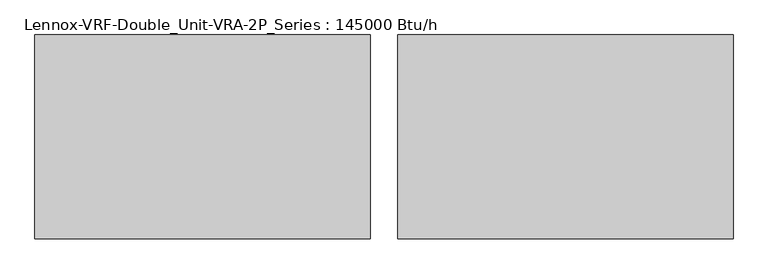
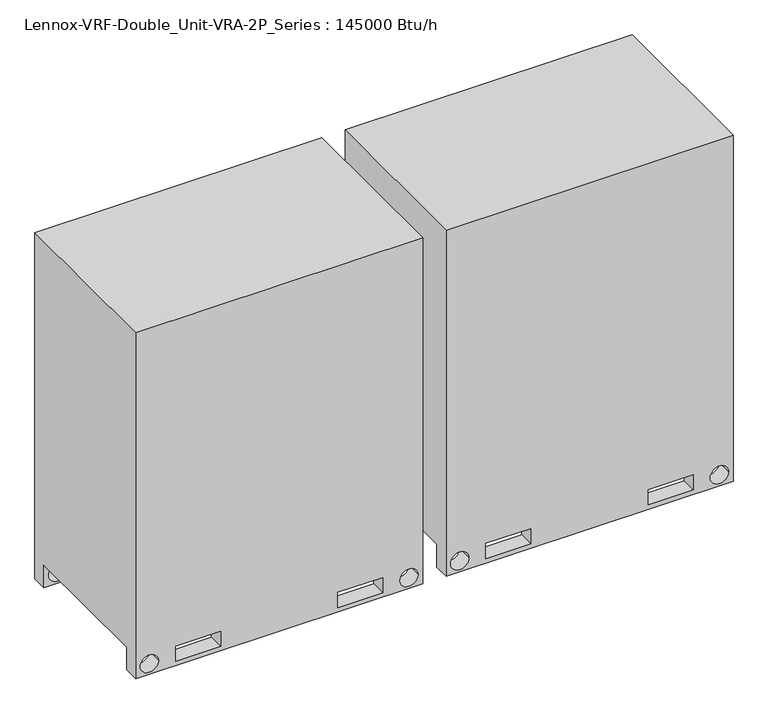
"""IFC4 building model written with IfcOpenShell, lengths in millimetres: proxy geometry, Lennox-VRF-Double_Unit-VRA-2P_Series : 145000 Btu/h."""

from ifc_helpers import new_model, si_unit, frame, origin, place, context, project, spatial, polyline, circle_curve, source, transform, mapped, element, save
from ifc_brep_helpers import plane_surface, revolved_surface, advanced_brep


def lennox_vrf_double_unit_vra_2p_series_145000_btu_h_069cfdef(model_context):
    return source(origin(), model_context, "Body", "AdvancedBrep", [
        advanced_brep(
        [(1309.0, -313.5, 105.0), (51.0, -313.5, 105.0), (51.0, 313.5, 105.0), (1309.0, 313.5, 105.0), (1309.0, -313.5, 0.0), (51.0, -313.5, 0.0), (423.0, -313.5, 90.0), (226.0, -313.5, 90.0), (226.0, -313.5, 20.0), (423.0, -313.5, 20.0), (71.0, -313.5, 50.0), (151.0, -313.5, 50.0), (1209.0, -313.5, 50.0), (1289.0, -313.5, 50.0), (1134.0, -313.5, 90.0), (937.0, -313.5, 90.0), (937.0, -313.5, 20.0), (1134.0, -313.5, 20.0), (51.0, 313.5, 0.0), (1309.0, 313.5, 0.0), (226.0, 313.5, 90.0), (423.0, 313.5, 90.0), (423.0, 313.5, 20.0), (226.0, 313.5, 20.0), (151.0, 313.5, 50.0), (71.0, 313.5, 50.0), (1289.0, 313.5, 50.0), (1209.0, 313.5, 50.0), (937.0, 313.5, 90.0), (1134.0, 313.5, 90.0), (1134.0, 313.5, 20.0), (937.0, 313.5, 20.0), (1309.0, 382.5, 1603.0), (51.0, 382.5, 1603.0), (51.0, -382.5, 1603.0), (1309.0, -382.5, 1603.0), (1309.0, -382.5, 0.0), (51.0, -382.5, 0.0), (51.0, 382.5, 0.0), (1309.0, 382.5, 0.0), (423.0, 382.5, 90.0), (226.0, 382.5, 90.0), (226.0, 382.5, 20.0), (423.0, 382.5, 20.0), (71.0, 382.5, 50.0), (151.0, 382.5, 50.0), (1209.0, 382.5, 50.0), (1289.0, 382.5, 50.0), (1134.0, 382.5, 90.0), (937.0, 382.5, 90.0), (937.0, 382.5, 20.0), (1134.0, 382.5, 20.0), (226.0, -382.5, 90.0), (423.0, -382.5, 90.0), (423.0, -382.5, 20.0), (226.0, -382.5, 20.0), (151.0, -382.5, 50.0), (71.0, -382.5, 50.0), (1289.0, -382.5, 50.0), (1209.0, -382.5, 50.0), (937.0, -382.5, 90.0), (1134.0, -382.5, 90.0), (1134.0, -382.5, 20.0), (937.0, -382.5, 20.0)],
        [
            (0, 1),
            (1, 2),
            (2, 3),
            (3, 0),
            (0, 4),
            (4, 5),
            (5, 1),
            (6, 7),
            (7, 8),
            (8, 9),
            (9, 6),
            (10, 11, circle_curve(frame((111.0, -313.5, 50.0), z_axis=(0.0, -1.0, 0.0), x_axis=(1.0, 0.0, 0.0)), 40.0)),
            (11, 10, circle_curve(frame((111.0, -313.5, 50.0), z_axis=(0.0, -1.0, 0.0), x_axis=(1.0, 0.0, 0.0)), 40.0)),
            (12, 13, circle_curve(frame((1249.0, -313.5, 50.0), z_axis=(0.0, -1.0, 0.0), x_axis=(1.0, 0.0, 0.0)), 40.0)),
            (13, 12, circle_curve(frame((1249.0, -313.5, 50.0), z_axis=(0.0, -1.0, 0.0), x_axis=(1.0, 0.0, 0.0)), 40.0)),
            (14, 15),
            (15, 16),
            (16, 17),
            (17, 14),
            (2, 18),
            (18, 19),
            (19, 3),
            (20, 21),
            (21, 22),
            (22, 23),
            (23, 20),
            (24, 25, circle_curve(frame((111.0, 313.5, 50.0), z_axis=(0.0, 1.0, 0.0), x_axis=(1.0, 0.0, 0.0)), 40.0)),
            (25, 24, circle_curve(frame((111.0, 313.5, 50.0), z_axis=(0.0, 1.0, 0.0), x_axis=(1.0, 0.0, 0.0)), 40.0)),
            (26, 27, circle_curve(frame((1249.0, 313.5, 50.0), z_axis=(0.0, 1.0, 0.0), x_axis=(1.0, 0.0, 0.0)), 40.0)),
            (27, 26, circle_curve(frame((1249.0, 313.5, 50.0), z_axis=(0.0, 1.0, 0.0), x_axis=(1.0, 0.0, 0.0)), 40.0)),
            (28, 29),
            (29, 30),
            (30, 31),
            (31, 28),
            (32, 33),
            (33, 34),
            (34, 35),
            (35, 32),
            (36, 37),
            (37, 5),
            (4, 36),
            (38, 39),
            (39, 19),
            (18, 38),
            (32, 39),
            (38, 33),
            (40, 41),
            (41, 42),
            (42, 43),
            (43, 40),
            (44, 45, circle_curve(frame((111.0, 382.5, 50.0), z_axis=(0.0, -1.0, 0.0), x_axis=(1.0, 0.0, 0.0)), 40.0)),
            (45, 44, circle_curve(frame((111.0, 382.5, 50.0), z_axis=(0.0, -1.0, 0.0), x_axis=(1.0, 0.0, 0.0)), 40.0)),
            (46, 47, circle_curve(frame((1249.0, 382.5, 50.0), z_axis=(0.0, -1.0, 0.0), x_axis=(1.0, 0.0, 0.0)), 40.0)),
            (47, 46, circle_curve(frame((1249.0, 382.5, 50.0), z_axis=(0.0, -1.0, 0.0), x_axis=(1.0, 0.0, 0.0)), 40.0)),
            (48, 49),
            (49, 50),
            (50, 51),
            (51, 48),
            (37, 34),
            (36, 35),
            (52, 53),
            (53, 54),
            (54, 55),
            (55, 52),
            (56, 57, circle_curve(frame((111.0, -382.5, 50.0), z_axis=(0.0, 1.0, 0.0), x_axis=(1.0, 0.0, 0.0)), 40.0)),
            (57, 56, circle_curve(frame((111.0, -382.5, 50.0), z_axis=(0.0, 1.0, 0.0), x_axis=(1.0, 0.0, 0.0)), 40.0)),
            (58, 59, circle_curve(frame((1249.0, -382.5, 50.0), z_axis=(0.0, 1.0, 0.0), x_axis=(1.0, 0.0, 0.0)), 40.0)),
            (59, 58, circle_curve(frame((1249.0, -382.5, 50.0), z_axis=(0.0, 1.0, 0.0), x_axis=(1.0, 0.0, 0.0)), 40.0)),
            (60, 61),
            (61, 62),
            (62, 63),
            (63, 60),
            (6, 53),
            (52, 7),
            (40, 21),
            (20, 41),
            (55, 8),
            (23, 42),
            (54, 9),
            (22, 43),
            (10, 57),
            (56, 11),
            (44, 25),
            (24, 45),
            (12, 59),
            (58, 13),
            (46, 27),
            (26, 47),
            (14, 61),
            (60, 15),
            (48, 29),
            (28, 49),
            (63, 16),
            (31, 50),
            (62, 17),
            (30, 51),
        ],
        [
            plane_surface(frame((1309.0, 313.5, 105.0), z_axis=(0.0, 0.0, -1.0), x_axis=(-1.0, 0.0, 0.0))),
            plane_surface(frame((1309.0, -313.5, 105.0), z_axis=(0.0, 1.0, 0.0), x_axis=(-1.0, 0.0, 0.0))),
            plane_surface(frame((1309.0, 313.5, 0.0), z_axis=(0.0, -1.0, 0.0), x_axis=(-1.0, 0.0, 0.0))),
            plane_surface(frame((680.0, 0.0, 1603.0), z_axis=(0.0, 0.0, 1.0), x_axis=(0.0, -1.0, 0.0))),
            plane_surface(frame((680.0, 0.0, 0.0), z_axis=(0.0, 0.0, -1.0), x_axis=(0.0, -1.0, 0.0))),
            plane_surface(frame((1309.0, 382.5, 1603.0), z_axis=(0.0, 1.0, 0.0), x_axis=(0.0, 0.0, -1.0))),
            plane_surface(frame((51.0, 382.5, 1603.0), z_axis=(-1.0, 0.0, 0.0), x_axis=(0.0, 0.0, -1.0))),
            plane_surface(frame((51.0, -382.5, 1603.0), z_axis=(0.0, -1.0, 0.0), x_axis=(0.0, 0.0, -1.0))),
            plane_surface(frame((1309.0, -382.5, 1603.0), z_axis=(1.0, 0.0, 0.0), x_axis=(0.0, 0.0, -1.0))),
            plane_surface(frame((423.0, -382.5, 90.0), z_axis=(0.0, 0.0, -1.0), x_axis=(0.0, 1.0, 0.0))),
            plane_surface(frame((226.0, -382.5, 90.0), z_axis=(1.0, 0.0, 0.0), x_axis=(0.0, 1.0, 0.0))),
            plane_surface(frame((226.0, -382.5, 20.0), z_axis=(0.0, 0.0, 1.0), x_axis=(0.0, 1.0, 0.0))),
            plane_surface(frame((423.0, -382.5, 20.0), z_axis=(-1.0, 0.0, 0.0), x_axis=(0.0, 1.0, 0.0))),
            revolved_surface(polyline([(151.0, -382.5, 50.0), (151.0, -313.5, 50.0)]), (111.0, 0.0, 50.0), (0.0, -1.0, 0.0)),
            revolved_surface(polyline([(151.0, 313.5, 50.0), (151.0, 382.5, 50.0)]), (111.0, 0.0, 50.0), (0.0, -1.0, 0.0)),
            revolved_surface(polyline([(1289.0, -382.5, 50.0), (1289.0, -313.5, 50.0)]), (1249.0, 0.0, 50.0), (0.0, -1.0, 0.0)),
            revolved_surface(polyline([(1289.0, 313.5, 50.0), (1289.0, 382.5, 50.0)]), (1249.0, 0.0, 50.0), (0.0, -1.0, 0.0)),
            plane_surface(frame((1134.0, -382.5, 90.0), z_axis=(0.0, 0.0, -1.0), x_axis=(0.0, 1.0, 0.0))),
            plane_surface(frame((937.0, -382.5, 90.0), z_axis=(1.0, 0.0, 0.0), x_axis=(0.0, 1.0, 0.0))),
            plane_surface(frame((937.0, -382.5, 20.0), z_axis=(0.0, 0.0, 1.0), x_axis=(0.0, 1.0, 0.0))),
            plane_surface(frame((1134.0, -382.5, 20.0), z_axis=(-1.0, 0.0, 0.0), x_axis=(0.0, 1.0, 0.0))),
        ],
        [
            (0, [[1, 2, 3, 4]]),
            (1, [[-1, 5, 6, 7], [8, 9, 10, 11], [12, 13], [14, 15], [16, 17, 18, 19]]),
            (2, [[-3, 20, 21, 22], [23, 24, 25, 26], [27, 28], [29, 30], [31, 32, 33, 34]]),
            (3, [[35, 36, 37, 38]]),
            (4, [[39, 40, -6, 41]]),
            (4, [[42, 43, -21, 44]]),
            (5, [[-35, 45, -42, 46], [47, 48, 49, 50], [51, 52], [53, 54], [55, 56, 57, 58]]),
            (6, [[-36, -46, -44, -20, -2, -7, -40, 59]]),
            (7, [[-37, -59, -39, 60], [61, 62, 63, 64], [65, 66], [67, 68], [69, 70, 71, 72]]),
            (8, [[-38, -60, -41, -5, -4, -22, -43, -45]]),
            (9, [[73, -61, 74, -8]]),
            (9, [[75, -23, 76, -47]]),
            (10, [[-74, -64, 77, -9]]),
            (10, [[-76, -26, 78, -48]]),
            (11, [[-77, -63, 79, -10]]),
            (11, [[-78, -25, 80, -49]]),
            (12, [[-73, -11, -79, -62]]),
            (12, [[-75, -50, -80, -24]]),
            (13, [[81, -65, 82, -12]]),
            (14, [[83, -27, 84, -51]]),
            (13, [[-81, -13, -82, -66]]),
            (14, [[-83, -52, -84, -28]]),
            (15, [[85, -67, 86, -14]]),
            (16, [[87, -29, 88, -53]]),
            (15, [[-85, -15, -86, -68]]),
            (16, [[-87, -54, -88, -30]]),
            (17, [[89, -69, 90, -16]]),
            (17, [[91, -31, 92, -55]]),
            (18, [[-90, -72, 93, -17]]),
            (18, [[-92, -34, 94, -56]]),
            (19, [[-93, -71, 95, -18]]),
            (19, [[-94, -33, 96, -57]]),
            (20, [[-89, -19, -95, -70]]),
            (20, [[-91, -58, -96, -32]]),
        ],
    ),
        advanced_brep(
        [(-51.0, -313.5, 105.0), (-1309.0, -313.5, 105.0), (-1309.0, 313.5, 105.0), (-51.0, 313.5, 105.0), (-51.0, -313.5, 0.0), (-1309.0, -313.5, 0.0), (-937.0, -313.5, 90.0), (-1134.0, -313.5, 90.0), (-1134.0, -313.5, 20.0), (-937.0, -313.5, 20.0), (-1289.0, -313.5, 50.0), (-1209.0, -313.5, 50.0), (-151.0, -313.5, 50.0), (-71.0, -313.5, 50.0), (-226.0, -313.5, 90.0), (-423.0, -313.5, 90.0), (-423.0, -313.5, 20.0), (-226.0, -313.5, 20.0), (-1309.0, 313.5, 0.0), (-51.0, 313.5, 0.0), (-1134.0, 313.5, 90.0), (-937.0, 313.5, 90.0), (-937.0, 313.5, 20.0), (-1134.0, 313.5, 20.0), (-1209.0, 313.5, 50.0), (-1289.0, 313.5, 50.0), (-71.0, 313.5, 50.0), (-151.0, 313.5, 50.0), (-423.0, 313.5, 90.0), (-226.0, 313.5, 90.0), (-226.0, 313.5, 20.0), (-423.0, 313.5, 20.0), (-51.0, 382.5, 1603.0), (-1309.0, 382.5, 1603.0), (-1309.0, -382.5, 1603.0), (-51.0, -382.5, 1603.0), (-51.0, -382.5, 0.0), (-1309.0, -382.5, 0.0), (-1309.0, 382.5, 0.0), (-51.0, 382.5, 0.0), (-937.0, 382.5, 90.0), (-1134.0, 382.5, 90.0), (-1134.0, 382.5, 20.0), (-937.0, 382.5, 20.0), (-1289.0, 382.5, 50.0), (-1209.0, 382.5, 50.0), (-151.0, 382.5, 50.0), (-71.0, 382.5, 50.0), (-226.0, 382.5, 90.0), (-423.0, 382.5, 90.0), (-423.0, 382.5, 20.0), (-226.0, 382.5, 20.0), (-1134.0, -382.5, 90.0), (-937.0, -382.5, 90.0), (-937.0, -382.5, 20.0), (-1134.0, -382.5, 20.0), (-1209.0, -382.5, 50.0), (-1289.0, -382.5, 50.0), (-71.0, -382.5, 50.0), (-151.0, -382.5, 50.0), (-423.0, -382.5, 90.0), (-226.0, -382.5, 90.0), (-226.0, -382.5, 20.0), (-423.0, -382.5, 20.0)],
        [
            (0, 1),
            (1, 2),
            (2, 3),
            (3, 0),
            (0, 4),
            (4, 5),
            (5, 1),
            (6, 7),
            (7, 8),
            (8, 9),
            (9, 6),
            (10, 11, circle_curve(frame((-1249.0, -313.5, 50.0), z_axis=(0.0, -1.0, 0.0), x_axis=(1.0, 0.0, 0.0)), 40.0)),
            (11, 10, circle_curve(frame((-1249.0, -313.5, 50.0), z_axis=(0.0, -1.0, 0.0), x_axis=(1.0, 0.0, 0.0)), 40.0)),
            (12, 13, circle_curve(frame((-111.0, -313.5, 50.0), z_axis=(0.0, -1.0, 0.0), x_axis=(1.0, 0.0, 0.0)), 40.0)),
            (13, 12, circle_curve(frame((-111.0, -313.5, 50.0), z_axis=(0.0, -1.0, 0.0), x_axis=(1.0, 0.0, 0.0)), 40.0)),
            (14, 15),
            (15, 16),
            (16, 17),
            (17, 14),
            (2, 18),
            (18, 19),
            (19, 3),
            (20, 21),
            (21, 22),
            (22, 23),
            (23, 20),
            (24, 25, circle_curve(frame((-1249.0, 313.5, 50.0), z_axis=(0.0, 1.0, 0.0), x_axis=(1.0, 0.0, 0.0)), 40.0)),
            (25, 24, circle_curve(frame((-1249.0, 313.5, 50.0), z_axis=(0.0, 1.0, 0.0), x_axis=(1.0, 0.0, 0.0)), 40.0)),
            (26, 27, circle_curve(frame((-111.0, 313.5, 50.0), z_axis=(0.0, 1.0, 0.0), x_axis=(1.0, 0.0, 0.0)), 40.0)),
            (27, 26, circle_curve(frame((-111.0, 313.5, 50.0), z_axis=(0.0, 1.0, 0.0), x_axis=(1.0, 0.0, 0.0)), 40.0)),
            (28, 29),
            (29, 30),
            (30, 31),
            (31, 28),
            (32, 33),
            (33, 34),
            (34, 35),
            (35, 32),
            (36, 37),
            (37, 5),
            (4, 36),
            (38, 39),
            (39, 19),
            (18, 38),
            (32, 39),
            (38, 33),
            (40, 41),
            (41, 42),
            (42, 43),
            (43, 40),
            (44, 45, circle_curve(frame((-1249.0, 382.5, 50.0), z_axis=(0.0, -1.0, 0.0), x_axis=(1.0, 0.0, 0.0)), 40.0)),
            (45, 44, circle_curve(frame((-1249.0, 382.5, 50.0), z_axis=(0.0, -1.0, 0.0), x_axis=(1.0, 0.0, 0.0)), 40.0)),
            (46, 47, circle_curve(frame((-111.0, 382.5, 50.0), z_axis=(0.0, -1.0, 0.0), x_axis=(1.0, 0.0, 0.0)), 40.0)),
            (47, 46, circle_curve(frame((-111.0, 382.5, 50.0), z_axis=(0.0, -1.0, 0.0), x_axis=(1.0, 0.0, 0.0)), 40.0)),
            (48, 49),
            (49, 50),
            (50, 51),
            (51, 48),
            (37, 34),
            (36, 35),
            (52, 53),
            (53, 54),
            (54, 55),
            (55, 52),
            (56, 57, circle_curve(frame((-1249.0, -382.5, 50.0), z_axis=(0.0, 1.0, 0.0), x_axis=(1.0, 0.0, 0.0)), 40.0)),
            (57, 56, circle_curve(frame((-1249.0, -382.5, 50.0), z_axis=(0.0, 1.0, 0.0), x_axis=(1.0, 0.0, 0.0)), 40.0)),
            (58, 59, circle_curve(frame((-111.0, -382.5, 50.0), z_axis=(0.0, 1.0, 0.0), x_axis=(1.0, 0.0, 0.0)), 40.0)),
            (59, 58, circle_curve(frame((-111.0, -382.5, 50.0), z_axis=(0.0, 1.0, 0.0), x_axis=(1.0, 0.0, 0.0)), 40.0)),
            (60, 61),
            (61, 62),
            (62, 63),
            (63, 60),
            (6, 53),
            (52, 7),
            (40, 21),
            (20, 41),
            (55, 8),
            (23, 42),
            (54, 9),
            (22, 43),
            (10, 57),
            (56, 11),
            (44, 25),
            (24, 45),
            (12, 59),
            (58, 13),
            (46, 27),
            (26, 47),
            (14, 61),
            (60, 15),
            (48, 29),
            (28, 49),
            (63, 16),
            (31, 50),
            (62, 17),
            (30, 51),
        ],
        [
            plane_surface(frame((-51.0, 313.5, 105.0), z_axis=(0.0, 0.0, -1.0), x_axis=(-1.0, 0.0, 0.0))),
            plane_surface(frame((-51.0, -313.5, 105.0), z_axis=(0.0, 1.0, 0.0), x_axis=(-1.0, 0.0, 0.0))),
            plane_surface(frame((-51.0, 313.5, 0.0), z_axis=(0.0, -1.0, 0.0), x_axis=(-1.0, 0.0, 0.0))),
            plane_surface(frame((-680.0, 0.0, 1603.0), z_axis=(0.0, 0.0, 1.0), x_axis=(0.0, -1.0, 0.0))),
            plane_surface(frame((-680.0, 0.0, 0.0), z_axis=(0.0, 0.0, -1.0), x_axis=(0.0, -1.0, 0.0))),
            plane_surface(frame((-51.0, 382.5, 1603.0), z_axis=(0.0, 1.0, 0.0), x_axis=(0.0, 0.0, -1.0))),
            plane_surface(frame((-1309.0, 382.5, 1603.0), z_axis=(-1.0, 0.0, 0.0), x_axis=(0.0, 0.0, -1.0))),
            plane_surface(frame((-1309.0, -382.5, 1603.0), z_axis=(0.0, -1.0, 0.0), x_axis=(0.0, 0.0, -1.0))),
            plane_surface(frame((-51.0, -382.5, 1603.0), z_axis=(1.0, 0.0, 0.0), x_axis=(0.0, 0.0, -1.0))),
            plane_surface(frame((-937.0, -382.5, 90.0), z_axis=(0.0, 0.0, -1.0), x_axis=(0.0, 1.0, 0.0))),
            plane_surface(frame((-1134.0, -382.5, 90.0), z_axis=(1.0, 0.0, 0.0), x_axis=(0.0, 1.0, 0.0))),
            plane_surface(frame((-1134.0, -382.5, 20.0), z_axis=(0.0, 0.0, 1.0), x_axis=(0.0, 1.0, 0.0))),
            plane_surface(frame((-937.0, -382.5, 20.0), z_axis=(-1.0, 0.0, 0.0), x_axis=(0.0, 1.0, 0.0))),
            revolved_surface(polyline([(-1209.0, -382.5, 50.0), (-1209.0, -313.5, 50.0)]), (-1249.0, 0.0, 50.0), (0.0, -1.0, 0.0)),
            revolved_surface(polyline([(-1209.0, 313.5, 50.0), (-1209.0, 382.5, 50.0)]), (-1249.0, 0.0, 50.0), (0.0, -1.0, 0.0)),
            revolved_surface(polyline([(-71.0, -382.5, 50.0), (-71.0, -313.5, 50.0)]), (-111.0, 0.0, 50.0), (0.0, -1.0, 0.0)),
            revolved_surface(polyline([(-71.0, 313.5, 50.0), (-71.0, 382.5, 50.0)]), (-111.0, 0.0, 50.0), (0.0, -1.0, 0.0)),
            plane_surface(frame((-226.0, -382.5, 90.0), z_axis=(0.0, 0.0, -1.0), x_axis=(0.0, 1.0, 0.0))),
            plane_surface(frame((-423.0, -382.5, 90.0), z_axis=(1.0, 0.0, 0.0), x_axis=(0.0, 1.0, 0.0))),
            plane_surface(frame((-423.0, -382.5, 20.0), z_axis=(0.0, 0.0, 1.0), x_axis=(0.0, 1.0, 0.0))),
            plane_surface(frame((-226.0, -382.5, 20.0), z_axis=(-1.0, 0.0, 0.0), x_axis=(0.0, 1.0, 0.0))),
        ],
        [
            (0, [[1, 2, 3, 4]]),
            (1, [[-1, 5, 6, 7], [8, 9, 10, 11], [12, 13], [14, 15], [16, 17, 18, 19]]),
            (2, [[-3, 20, 21, 22], [23, 24, 25, 26], [27, 28], [29, 30], [31, 32, 33, 34]]),
            (3, [[35, 36, 37, 38]]),
            (4, [[39, 40, -6, 41]]),
            (4, [[42, 43, -21, 44]]),
            (5, [[-35, 45, -42, 46], [47, 48, 49, 50], [51, 52], [53, 54], [55, 56, 57, 58]]),
            (6, [[-36, -46, -44, -20, -2, -7, -40, 59]]),
            (7, [[-37, -59, -39, 60], [61, 62, 63, 64], [65, 66], [67, 68], [69, 70, 71, 72]]),
            (8, [[-38, -60, -41, -5, -4, -22, -43, -45]]),
            (9, [[73, -61, 74, -8]]),
            (9, [[75, -23, 76, -47]]),
            (10, [[-74, -64, 77, -9]]),
            (10, [[-76, -26, 78, -48]]),
            (11, [[-77, -63, 79, -10]]),
            (11, [[-78, -25, 80, -49]]),
            (12, [[-73, -11, -79, -62]]),
            (12, [[-75, -50, -80, -24]]),
            (13, [[81, -65, 82, -12]]),
            (14, [[83, -27, 84, -51]]),
            (13, [[-81, -13, -82, -66]]),
            (14, [[-83, -52, -84, -28]]),
            (15, [[85, -67, 86, -14]]),
            (16, [[87, -29, 88, -53]]),
            (15, [[-85, -15, -86, -68]]),
            (16, [[-87, -54, -88, -30]]),
            (17, [[89, -69, 90, -16]]),
            (17, [[91, -31, 92, -55]]),
            (18, [[-90, -72, 93, -17]]),
            (18, [[-92, -34, 94, -56]]),
            (19, [[-93, -71, 95, -18]]),
            (19, [[-94, -33, 96, -57]]),
            (20, [[-89, -19, -95, -70]]),
            (20, [[-91, -58, -96, -32]]),
        ],
    ),
    ])


if __name__ == "__main__":
    model = new_model("IFC4")
    model_context = context("Model", 3, world=origin())
    ifc_project = project(units=[si_unit("LENGTHUNIT", "METRE", prefix="MILLI")], contexts=[model_context])
    site = spatial("IfcSite", under=ifc_project)
    building = spatial("IfcBuilding", under=site)
    placement = place(None, origin())
    lennox_vrf_double_unit_vra_2p_series_145000_btu_h_shape = lennox_vrf_double_unit_vra_2p_series_145000_btu_h_069cfdef(model_context)
    element("IfcBuildingElementProxy", 1, Name="Lennox-VRF-Double_Unit-VRA-2P_Series : 145000 Btu/h", ObjectType="Lennox-VRF-Double_Unit-VRA-2P_Series : 145000 Btu/h", at=placement, inside=building, context=model_context, shape_type="MappedRepresentation", body=[
        mapped(lennox_vrf_double_unit_vra_2p_series_145000_btu_h_shape, transform((0.0, 0.0, 0.0), x_axis=(1.0, 0.0, 0.0), y_axis=(0.0, 1.0, 0.0), z_axis=(0.0, 0.0, 1.0))),
    ])
    save(model, "model.ifc")
